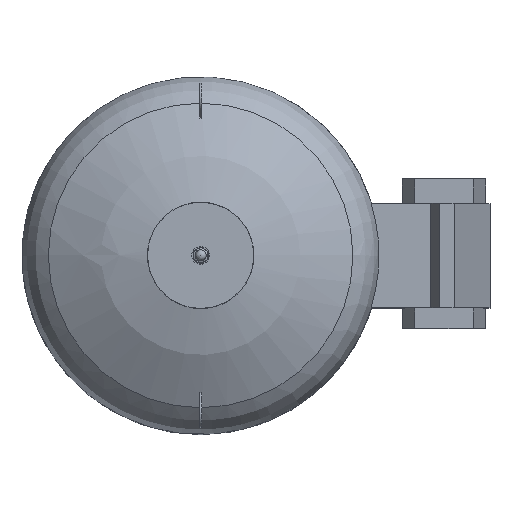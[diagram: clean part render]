
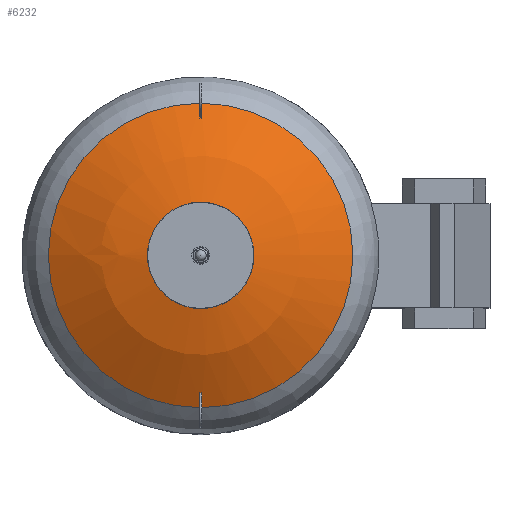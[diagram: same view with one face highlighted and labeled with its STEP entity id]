
A CAD part, top view. The second image highlights one B-rep face of the part: STEP entity #6232.
In plain terms, the highlighted spherical face has radius 633.9 mm.
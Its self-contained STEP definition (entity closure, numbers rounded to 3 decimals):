
#18=SPHERICAL_SURFACE('',#6900,633.9);
#811=FACE_OUTER_BOUND('',#1173,.T.);
#1173=EDGE_LOOP('',(#5397,#5398,#5399,#5400,#5401,#5402));
#2283=CIRCLE('',#6739,335.793);
#2284=CIRCLE('',#6740,335.793);
#2371=CIRCLE('',#6898,94.);
#2372=CIRCLE('',#6899,94.);
#2373=CIRCLE('',#6901,633.9);
#2855=VERTEX_POINT('',#10146);
#2856=VERTEX_POINT('',#10148);
#2997=VERTEX_POINT('',#10664);
#2998=VERTEX_POINT('',#10665);
#3641=EDGE_CURVE('',#2855,#2856,#2283,.T.);
#3642=EDGE_CURVE('',#2856,#2855,#2284,.T.);
#3845=EDGE_CURVE('',#2997,#2998,#2371,.T.);
#3846=EDGE_CURVE('',#2998,#2997,#2372,.T.);
#3848=EDGE_CURVE('',#2997,#2856,#2373,.T.);
#5397=ORIENTED_EDGE('',*,*,#3845,.T.);
#5398=ORIENTED_EDGE('',*,*,#3846,.T.);
#5399=ORIENTED_EDGE('',*,*,#3848,.T.);
#5400=ORIENTED_EDGE('',*,*,#3641,.F.);
#5401=ORIENTED_EDGE('',*,*,#3642,.F.);
#5402=ORIENTED_EDGE('',*,*,#3848,.F.);
#6232=ADVANCED_FACE('',(#811),#18,.T.);
#6739=AXIS2_PLACEMENT_3D('',#10149,#8180,#8181);
#6740=AXIS2_PLACEMENT_3D('',#10150,#8182,#8183);
#6898=AXIS2_PLACEMENT_3D('',#10666,#8564,#8565);
#6899=AXIS2_PLACEMENT_3D('',#10667,#8566,#8567);
#6900=AXIS2_PLACEMENT_3D('',#10669,#8569,#8570);
#6901=AXIS2_PLACEMENT_3D('',#10670,#8571,#8572);
#8180=DIRECTION('center_axis',(0.,0.,-1.));
#8181=DIRECTION('ref_axis',(1.,0.,0.));
#8182=DIRECTION('center_axis',(0.,0.,-1.));
#8183=DIRECTION('ref_axis',(1.,0.,0.));
#8564=DIRECTION('center_axis',(0.,0.,-1.));
#8565=DIRECTION('ref_axis',(1.,0.,0.));
#8566=DIRECTION('center_axis',(0.,0.,-1.));
#8567=DIRECTION('ref_axis',(1.,0.,0.));
#8569=DIRECTION('center_axis',(0.,0.,1.));
#8570=DIRECTION('ref_axis',(1.,0.,0.));
#8571=DIRECTION('center_axis',(0.,-1.,0.));
#8572=DIRECTION('ref_axis',(-1.,0.,0.));
#10146=CARTESIAN_POINT('',(335.793,0.,1171.255));
#10148=CARTESIAN_POINT('',(-335.793,0.,1171.255));
#10149=CARTESIAN_POINT('Origin',(0.,0.,1171.255));
#10150=CARTESIAN_POINT('Origin',(0.,0.,1171.255));
#10664=CARTESIAN_POINT('',(-94.,0.,1260.492));
#10665=CARTESIAN_POINT('',(94.,0.,1260.492));
#10666=CARTESIAN_POINT('Origin',(0.,0.,1260.492));
#10667=CARTESIAN_POINT('Origin',(0.,0.,1260.492));
#10669=CARTESIAN_POINT('Origin',(0.,0.,633.6));
#10670=CARTESIAN_POINT('Origin',(0.,0.,633.6));
